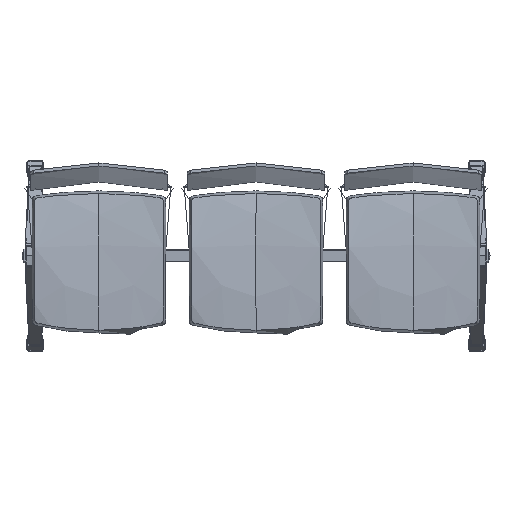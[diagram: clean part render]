
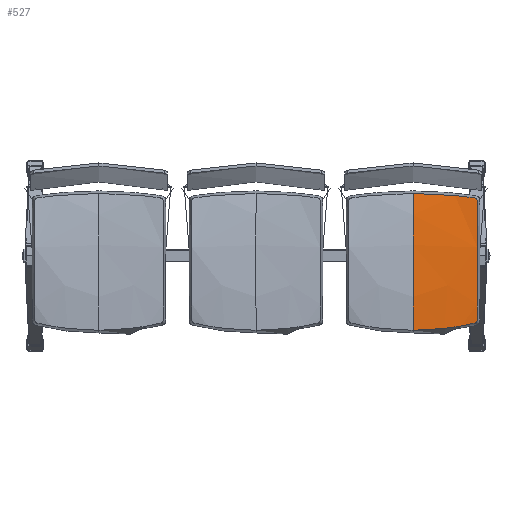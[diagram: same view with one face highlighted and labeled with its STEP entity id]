
A CAD part, top view. The second image highlights one B-rep face of the part: STEP entity #527.
In plain terms, the highlighted free-form (B-spline) face has degree [3, 3] with [6, 5] control points.
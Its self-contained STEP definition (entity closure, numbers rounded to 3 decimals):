
#527=ADVANCED_FACE('',(#1055),#6533,.T.);
#1055=FACE_OUTER_BOUND('',#1583,.T.);
#1583=EDGE_LOOP('',(#3338,#3339));
#3338=ORIENTED_EDGE('',*,*,#4887,.F.);
#3339=ORIENTED_EDGE('',*,*,#4890,.F.);
#4887=EDGE_CURVE('',#6048,#6047,#7618,.T.);
#4890=EDGE_CURVE('',#6047,#6048,#7621,.T.);
#6047=VERTEX_POINT('',#13938);
#6048=VERTEX_POINT('',#13939);
#6533=B_SPLINE_SURFACE_WITH_KNOTS('',3,3,((#13318,#13319,#13320,#13321,
#13322),(#13323,#13324,#13325,#13326,#13327),(#13328,#13329,#13330,#13331,
#13332),(#13333,#13334,#13335,#13336,#13337),(#13338,#13339,#13340,#13341,
#13342),(#13343,#13344,#13345,#13346,#13347)),.UNSPECIFIED.,.F.,.F.,.F.,
(4,1,1,4),(4,1,4),(0.,150.405,300.811,451.216),
(0.,113.023,226.045),.UNSPECIFIED.);
#7618=B_SPLINE_CURVE_WITH_KNOTS('',3,(#13946,#13947,#13948,#13949,#13950,
#13951),.UNSPECIFIED.,.F.,.F.,(4,1,1,4),(14.636,150.405,
300.811,436.736),.UNSPECIFIED.);
#7621=B_SPLINE_CURVE_WITH_KNOTS('',3,(#14022,#14023,#14024,#14025,#14026,
#14027,#14028,#14029,#14030,#14031,#14032,#14033,#14034,#14035,#14036,#14037,
#14038,#14039,#14040,#14041,#14042,#14043,#14044,#14045,#14046,#14047,#14048,
#14049,#14050,#14051,#14052,#14053,#14054,#14055,#14056,#14057,#14058,#14059,
#14060,#14061,#14062,#14063,#14064,#14065,#14066,#14067,#14068,#14069,#14070,
#14071,#14072,#14073,#14074,#14075,#14076,#14077,#14078,#14079,#14080,#14081,
#14082,#14083,#14084,#14085,#14086,#14087),.UNSPECIFIED.,.F.,.F.,(4,2,2,
2,1,1,1,2,2,2,2,2,1,1,1,2,2,2,2,2,2,2,2,2,1,1,1,2,2,2,2,2,1,1,1,2,2,2,4),
(-834.547,-732.977,-707.585,-682.192,
-634.077,-631.407,-628.738,-626.069,
-623.399,-620.73,-618.061,-615.391,
-612.722,-610.053,-607.384,-561.831,
-513.608,-489.497,-465.386,-417.164,
-368.942,-344.831,-320.72,-272.498,
-226.987,-224.275,-221.564,-218.853,
-216.141,-213.43,-210.718,-208.007,
-205.295,-202.584,-199.872,-151.938,
-126.615,-101.292,0.),.UNSPECIFIED.);
#13318=CARTESIAN_POINT('',(732.5,-227.5,452.92));
#13319=CARTESIAN_POINT('',(696.336,-237.419,461.436));
#13320=CARTESIAN_POINT('',(622.582,-252.432,466.217));
#13321=CARTESIAN_POINT('',(547.527,-257.459,466.479));
#13322=CARTESIAN_POINT('',(510.,-257.459,466.479));
#13323=CARTESIAN_POINT('',(732.5,-180.234,461.665));
#13324=CARTESIAN_POINT('',(696.401,-188.252,471.09));
#13325=CARTESIAN_POINT('',(622.677,-200.383,474.207));
#13326=CARTESIAN_POINT('',(547.559,-204.444,473.909));
#13327=CARTESIAN_POINT('',(510.,-204.444,473.909));
#13328=CARTESIAN_POINT('',(732.5,-85.677,465.522));
#13329=CARTESIAN_POINT('',(696.531,-89.935,472.649));
#13330=CARTESIAN_POINT('',(622.867,-96.362,468.263));
#13331=CARTESIAN_POINT('',(547.622,-98.511,466.788));
#13332=CARTESIAN_POINT('',(510.,-98.511,466.788));
#13333=CARTESIAN_POINT('',(732.5,56.117,460.406));
#13334=CARTESIAN_POINT('',(696.726,57.366,463.741));
#13335=CARTESIAN_POINT('',(623.151,59.293,453.584));
#13336=CARTESIAN_POINT('',(547.717,59.944,450.172));
#13337=CARTESIAN_POINT('',(510.,59.944,450.172));
#13338=CARTESIAN_POINT('',(732.5,150.418,449.736));
#13339=CARTESIAN_POINT('',(696.856,155.229,450.319));
#13340=CARTESIAN_POINT('',(623.341,162.56,439.981));
#13341=CARTESIAN_POINT('',(547.78,165.024,435.165));
#13342=CARTESIAN_POINT('',(510.,165.024,435.165));
#13343=CARTESIAN_POINT('',(732.5,197.5,437.588));
#13344=CARTESIAN_POINT('',(696.92,204.063,434.741));
#13345=CARTESIAN_POINT('',(623.436,214.054,422.229));
#13346=CARTESIAN_POINT('',(547.812,217.409,416.683));
#13347=CARTESIAN_POINT('',(510.,217.409,416.683));
#13938=CARTESIAN_POINT('',(510.,202.275,421.725));
#13939=CARTESIAN_POINT('',(510.,-241.984,468.345));
#13946=CARTESIAN_POINT('',(510.,-241.984,468.345));
#13947=CARTESIAN_POINT('',(510.,-194.136,473.206));
#13948=CARTESIAN_POINT('',(510.,-93.372,466.249));
#13949=CARTESIAN_POINT('',(510.,54.859,450.705));
#13950=CARTESIAN_POINT('',(510.,154.906,436.601));
#13951=CARTESIAN_POINT('',(510.,202.275,421.725));
#14022=CARTESIAN_POINT('',(510.,202.275,421.725));
#14023=CARTESIAN_POINT('',(543.428,202.274,421.725));
#14024=CARTESIAN_POINT('',(576.833,201.067,423.808));
#14025=CARTESIAN_POINT('',(618.273,198.045,428.155));
#14026=CARTESIAN_POINT('',(626.546,197.365,429.119));
#14027=CARTESIAN_POINT('',(643.064,195.851,431.169));
#14028=CARTESIAN_POINT('',(651.303,195.018,432.245));
#14029=CARTESIAN_POINT('',(675.179,192.377,435.343));
#14030=CARTESIAN_POINT('',(691.515,190.261,437.451));
#14031=CARTESIAN_POINT('',(709.038,187.674,439.137));
#14032=CARTESIAN_POINT('',(710.949,187.297,439.337));
#14033=CARTESIAN_POINT('',(712.303,186.803,439.534));
#14034=CARTESIAN_POINT('',(713.554,186.216,439.745));
#14035=CARTESIAN_POINT('',(714.158,185.865,439.863));
#14036=CARTESIAN_POINT('',(715.273,185.048,440.12));
#14037=CARTESIAN_POINT('',(715.785,184.581,440.26));
#14038=CARTESIAN_POINT('',(716.691,183.546,440.555));
#14039=CARTESIAN_POINT('',(717.084,182.978,440.71));
#14040=CARTESIAN_POINT('',(717.737,181.775,441.029));
#14041=CARTESIAN_POINT('',(717.999,181.137,441.193));
#14042=CARTESIAN_POINT('',(718.399,179.838,441.519));
#14043=CARTESIAN_POINT('',(718.689,178.451,441.857));
#14044=CARTESIAN_POINT('',(718.776,176.557,442.302));
#14045=CARTESIAN_POINT('',(718.742,159.822,446.126));
#14046=CARTESIAN_POINT('',(718.749,144.125,449.006));
#14047=CARTESIAN_POINT('',(718.73,113.211,453.722));
#14048=CARTESIAN_POINT('',(718.724,97.267,455.629));
#14049=CARTESIAN_POINT('',(718.712,73.289,458.027));
#14050=CARTESIAN_POINT('',(718.709,65.291,458.748));
#14051=CARTESIAN_POINT('',(718.701,49.285,460.088));
#14052=CARTESIAN_POINT('',(718.697,41.276,460.707));
#14053=CARTESIAN_POINT('',(718.686,17.243,462.414));
#14054=CARTESIAN_POINT('',(718.678,1.206,463.35));
#14055=CARTESIAN_POINT('',(718.663,-30.887,464.815));
#14056=CARTESIAN_POINT('',(718.656,-46.942,465.344));
#14057=CARTESIAN_POINT('',(718.644,-71.031,465.833));
#14058=CARTESIAN_POINT('',(718.641,-79.063,465.945));
#14059=CARTESIAN_POINT('',(718.633,-95.124,466.068));
#14060=CARTESIAN_POINT('',(718.629,-103.157,466.078));
#14061=CARTESIAN_POINT('',(718.618,-127.252,465.877));
#14062=CARTESIAN_POINT('',(718.609,-143.304,465.433));
#14063=CARTESIAN_POINT('',(718.599,-174.505,463.545));
#14064=CARTESIAN_POINT('',(718.578,-190.395,462.101));
#14065=CARTESIAN_POINT('',(718.596,-207.426,459.773));
#14066=CARTESIAN_POINT('',(718.506,-209.362,459.519));
#14067=CARTESIAN_POINT('',(718.218,-210.795,459.378));
#14068=CARTESIAN_POINT('',(717.826,-212.142,459.27));
#14069=CARTESIAN_POINT('',(717.57,-212.807,459.23));
#14070=CARTESIAN_POINT('',(716.935,-214.072,459.185));
#14071=CARTESIAN_POINT('',(716.555,-214.674,459.18));
#14072=CARTESIAN_POINT('',(715.68,-215.787,459.206));
#14073=CARTESIAN_POINT('',(715.185,-216.298,459.238));
#14074=CARTESIAN_POINT('',(714.107,-217.21,459.334));
#14075=CARTESIAN_POINT('',(713.522,-217.613,459.4));
#14076=CARTESIAN_POINT('',(712.306,-218.306,459.554));
#14077=CARTESIAN_POINT('',(710.982,-218.912,459.74));
#14078=CARTESIAN_POINT('',(709.118,-219.435,460.046));
#14079=CARTESIAN_POINT('',(691.911,-223.338,462.888));
#14080=CARTESIAN_POINT('',(675.65,-226.584,464.503));
#14081=CARTESIAN_POINT('',(651.78,-230.666,466.076));
#14082=CARTESIAN_POINT('',(643.518,-231.96,466.471));
#14083=CARTESIAN_POINT('',(626.939,-234.316,467.095));
#14084=CARTESIAN_POINT('',(618.632,-235.377,467.33));
#14085=CARTESIAN_POINT('',(577.022,-240.093,468.307));
#14086=CARTESIAN_POINT('',(543.509,-241.984,468.344));
#14087=CARTESIAN_POINT('',(510.,-241.984,468.345));
